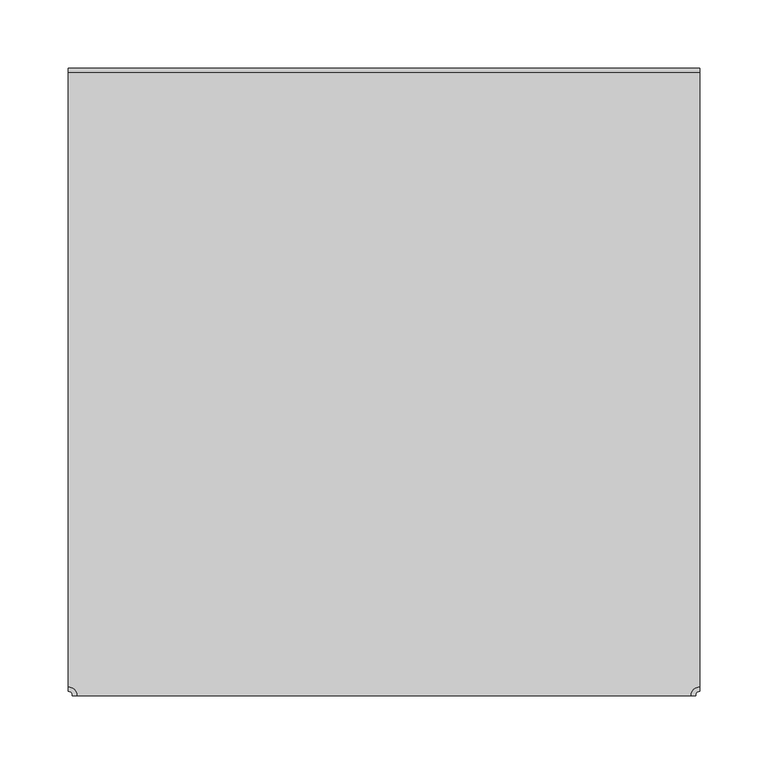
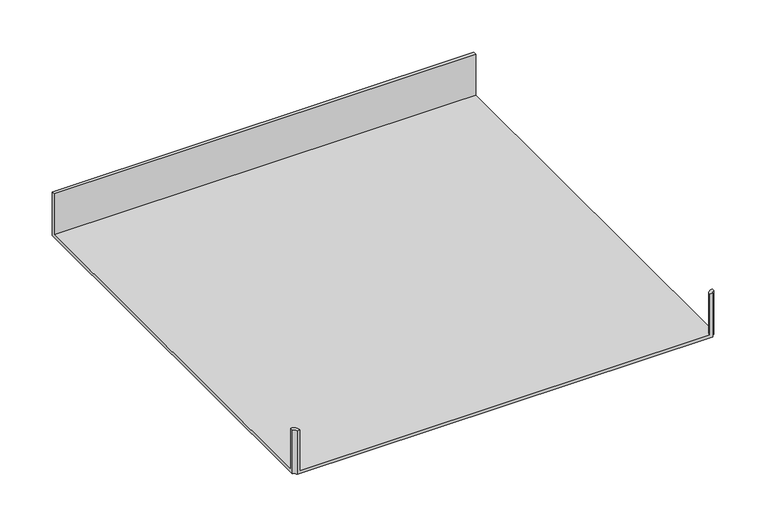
"""IFC4 building model written with IfcOpenShell, lengths in millimetres: cable carrier fitting geometry, Tee-Cablofil-Wire_Mesh_Cable_Tray : EZ T 90 KIT."""

from ifc_helpers import new_model, si_unit, frame, origin, place, context, project, spatial, polyline, circle_curve, source, transform, mapped, element, save
from ifc_brep_helpers import plane_surface, cylinder_surface, revolved_surface, advanced_brep


def cable_carrier_fitting_5fe02373(model_context):
    return source(origin(), model_context, "Body", "AdvancedBrep", [
        advanced_brep(
        [(-228.6, -231.775, 25.4), (-225.425, -231.775, 25.4), (-231.775, -225.425, 25.4), (-231.775, -228.6, 25.4), (228.6, -231.775, 25.4), (231.775, -228.6, 25.4), (231.775, -225.425, 25.4), (225.425, -231.775, 25.4), (231.775, 228.6, 25.4), (-231.775, 228.6, 25.4), (-231.775, 225.425, 25.4), (231.775, 225.425, 25.4), (-228.6, -231.775, -25.4), (-231.775, -228.6, -25.4), (-231.775, 228.6, -25.4), (231.775, 228.6, -25.4), (231.775, -228.6, -25.4), (228.6, -231.775, -25.4), (225.425, -231.775, -22.225), (-225.425, -231.775, -22.225), (-231.775, -225.425, -22.225), (-231.775, 225.425, -22.225), (231.775, 225.425, -22.225), (231.775, -225.425, -22.225)],
        [
            (0, 1),
            (1, 2, circle_curve(frame((-231.775, -231.775, 25.4), z_axis=(0.0, 0.0, 1.0), x_axis=(1.0, 0.0, 0.0)), 6.35)),
            (2, 3),
            (3, 0, circle_curve(frame((-231.775, -231.775, 25.4), z_axis=(0.0, 0.0, -1.0), x_axis=(1.0, 0.0, 0.0)), 3.175)),
            (4, 5, circle_curve(frame((231.775, -231.775, 25.4), z_axis=(0.0, 0.0, -1.0), x_axis=(1.0, 0.0, 0.0)), 3.175)),
            (5, 6),
            (6, 7, circle_curve(frame((231.775, -231.775, 25.4), z_axis=(0.0, 0.0, 1.0), x_axis=(1.0, 0.0, 0.0)), 6.35)),
            (7, 4),
            (8, 9),
            (9, 10),
            (10, 11),
            (11, 8),
            (12, 13, circle_curve(frame((-231.775, -231.775, -25.4), z_axis=(0.0, 0.0, 1.0), x_axis=(1.0, 0.0, 0.0)), 3.175)),
            (13, 14),
            (14, 15),
            (15, 16),
            (16, 17, circle_curve(frame((231.775, -231.775, -25.4), z_axis=(0.0, 0.0, 1.0), x_axis=(1.0, 0.0, 0.0)), 3.175)),
            (17, 12),
            (0, 12),
            (17, 4),
            (7, 18),
            (18, 19),
            (19, 1),
            (19, 20, circle_curve(frame((-231.775, -231.775, -22.225), z_axis=(0.0, 0.0, 1.0), x_axis=(1.0, 0.0, 0.0)), 6.35)),
            (20, 2),
            (20, 21),
            (21, 10),
            (9, 14),
            (13, 3),
            (16, 5),
            (15, 8),
            (11, 22),
            (22, 23),
            (23, 6),
            (23, 18, circle_curve(frame((231.775, -231.775, -22.225), z_axis=(0.0, 0.0, 1.0), x_axis=(1.0, 0.0, 0.0)), 6.35)),
            (21, 22),
        ],
        [
            plane_surface(frame((-228.6, -231.775, 25.4), z_axis=(0.0, 0.0, 1.0), x_axis=(1.0, 0.0, 0.0))),
            plane_surface(frame((-228.6, -231.775, -25.4), z_axis=(0.0, 0.0, -1.0), x_axis=(-1.0, 0.0, 0.0))),
            plane_surface(frame((-228.6, -231.775, 25.4), z_axis=(0.0, -1.0, 0.0), x_axis=(0.0, 0.0, -1.0))),
            cylinder_surface(frame((-231.775, -231.775, -25.4), z_axis=(0.0, 0.0, 1.0), x_axis=(1.0, 0.0, 0.0)), 6.35),
            plane_surface(frame((-231.775, -225.425, 25.4), z_axis=(-1.0, 0.0, 0.0), x_axis=(0.0, 0.0, -1.0))),
            revolved_surface(polyline([(-228.6, -231.775, -25.4), (-228.6, -231.775, 25.4)]), (-231.775, -231.775, -25.4), (0.0, 0.0, -1.0)),
            revolved_surface(polyline([(234.95000000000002, -231.775, -25.4), (234.95000000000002, -231.775, 25.4)]), (231.775, -231.775, 0.0), (0.0, 0.0, -1.0)),
            plane_surface(frame((231.775, -228.6, 25.4), z_axis=(1.0, 0.0, 0.0), x_axis=(0.0, 0.0, -1.0))),
            cylinder_surface(frame((231.775, -231.775, 0.0), z_axis=(0.0, 0.0, 1.0), x_axis=(1.0, 0.0, 0.0)), 6.35),
            plane_surface(frame((231.775, 228.6, 25.4), z_axis=(0.0, 1.0, 0.0), x_axis=(0.0, 0.0, -1.0))),
            plane_surface(frame((-231.775, 225.425, 25.4), z_axis=(0.0, -1.0, 0.0), x_axis=(0.0, 0.0, -1.0))),
            plane_surface(frame((-228.6, -231.775, -22.225), z_axis=(0.0, 0.0, 1.0), x_axis=(1.0, 0.0, 0.0))),
        ],
        [
            (0, [[1, 2, 3, 4]]),
            (0, [[5, 6, 7, 8]]),
            (0, [[9, 10, 11, 12]]),
            (1, [[13, 14, 15, 16, 17, 18]]),
            (2, [[-1, 19, -18, 20, -8, 21, 22, 23]]),
            (3, [[-2, -23, 24, 25]]),
            (4, [[-3, -25, 26, 27, -10, 28, -14, 29]]),
            (5, [[-19, -4, -29, -13]]),
            (6, [[30, -5, -20, -17]]),
            (7, [[-6, -30, -16, 31, -12, 32, 33, 34]]),
            (8, [[-7, -34, 35, -21]]),
            (9, [[-28, -9, -31, -15]]),
            (10, [[-11, -27, 36, -32]]),
            (11, [[-22, -35, -33, -36, -26, -24]]),
        ],
    ),
    ])


if __name__ == "__main__":
    model = new_model("IFC4")
    model_context = context("Model", 3, world=origin())
    ifc_project = project(units=[si_unit("LENGTHUNIT", "METRE", prefix="MILLI")], contexts=[model_context])
    site = spatial("IfcSite", under=ifc_project)
    building = spatial("IfcBuilding", under=site)
    placement = place(None, origin())
    cable_carrier_fitting_shape = cable_carrier_fitting_5fe02373(model_context)
    element("IfcCableCarrierFitting", 1, ObjectType="Tee-Cablofil-Wire_Mesh_Cable_Tray : EZ T 90 KIT", at=placement, inside=building, context=model_context, shape_type="MappedRepresentation", body=[
        mapped(cable_carrier_fitting_shape, transform((0.0, 0.0, 0.0), x_axis=(1.0, 0.0, 0.0), y_axis=(0.0, 1.0, 0.0), z_axis=(0.0, 0.0, 1.0))),
    ])
    save(model, "model.ifc")
